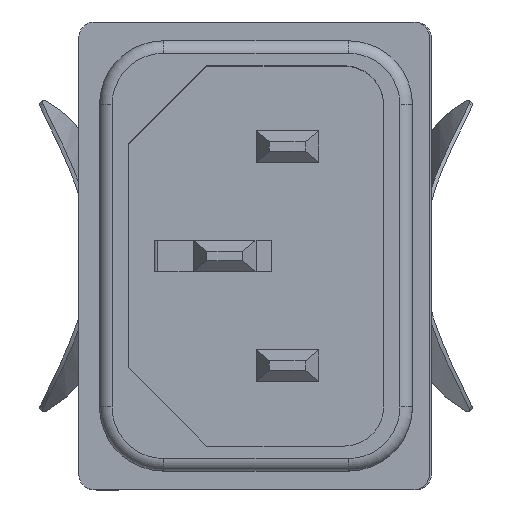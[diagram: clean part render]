
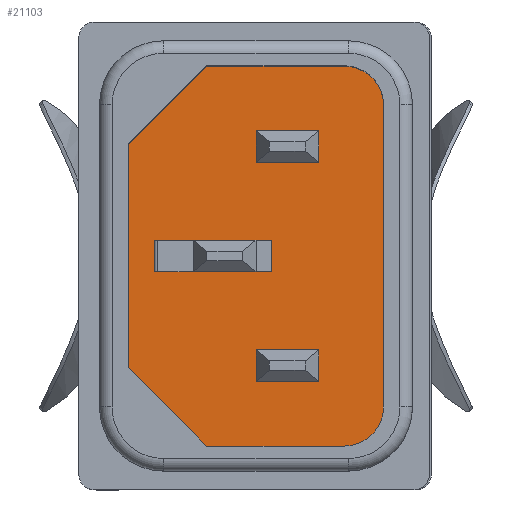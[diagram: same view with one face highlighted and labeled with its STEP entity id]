
A CAD part, top view. The second image highlights one B-rep face of the part: STEP entity #21103.
In plain terms, the highlighted planar face has unit normal (0, 0, 1).
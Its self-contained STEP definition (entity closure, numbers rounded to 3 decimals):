
#18095=CARTESIAN_POINT('',(39.15,49.042,37.5));
#18096=VERTEX_POINT('',#18095);
#18097=CARTESIAN_POINT('',(35.15,49.042,37.5));
#18098=VERTEX_POINT('',#18097);
#18099=CARTESIAN_POINT('',(39.15,49.042,37.5));
#18100=DIRECTION('',(-1.0,0.0,0.0));
#18101=VECTOR('',#18100,4.0);
#18102=LINE('',#18099,#18101);
#18103=EDGE_CURVE('',#18096,#18098,#18102,.T.);
#18245=CARTESIAN_POINT('',(35.15,51.042,37.5));
#18246=VERTEX_POINT('',#18245);
#18247=CARTESIAN_POINT('',(39.15,51.042,37.5));
#18248=VERTEX_POINT('',#18247);
#18249=CARTESIAN_POINT('',(35.15,51.042,37.5));
#18250=DIRECTION('',(1.0,0.0,0.0));
#18251=VECTOR('',#18250,4.0);
#18252=LINE('',#18249,#18251);
#18253=EDGE_CURVE('',#18246,#18248,#18252,.T.);
#18279=CARTESIAN_POINT('',(39.15,51.042,37.5));
#18280=DIRECTION('',(0.0,-1.0,0.0));
#18281=VECTOR('',#18280,2.);
#18282=LINE('',#18279,#18281);
#18283=EDGE_CURVE('',#18248,#18096,#18282,.T.);
#18311=CARTESIAN_POINT('',(35.15,49.042,37.5));
#18312=DIRECTION('',(0.0,1.0,0.0));
#18313=VECTOR('',#18312,2.0);
#18314=LINE('',#18311,#18313);
#18315=EDGE_CURVE('',#18098,#18246,#18314,.T.);
#18434=CARTESIAN_POINT('',(29.099,42.042,37.5));
#18435=VERTEX_POINT('',#18434);
#18436=CARTESIAN_POINT('',(29.099,44.042,37.5));
#18437=VERTEX_POINT('',#18436);
#18438=CARTESIAN_POINT('',(29.099,42.042,37.5));
#18439=DIRECTION('',(0.0,1.0,0.0));
#18440=VECTOR('',#18439,2.0);
#18441=LINE('',#18438,#18440);
#18442=EDGE_CURVE('',#18435,#18437,#18441,.T.);
#18498=CARTESIAN_POINT('',(36.15,42.042,37.5));
#18499=VERTEX_POINT('',#18498);
#18500=CARTESIAN_POINT('',(36.15,42.042,37.5));
#18501=DIRECTION('',(-1.0,0.0,0.0));
#18502=VECTOR('',#18501,7.051);
#18503=LINE('',#18500,#18502);
#18504=EDGE_CURVE('',#18499,#18435,#18503,.T.);
#18680=CARTESIAN_POINT('',(36.15,44.042,37.5));
#18681=VERTEX_POINT('',#18680);
#18682=CARTESIAN_POINT('',(29.099,44.042,37.5));
#18683=DIRECTION('',(1.0,0.0,0.0));
#18684=VECTOR('',#18683,7.051);
#18685=LINE('',#18682,#18684);
#18686=EDGE_CURVE('',#18437,#18681,#18685,.T.);
#18852=CARTESIAN_POINT('',(36.15,44.042,37.5));
#18853=DIRECTION('',(0.0,-1.0,0.0));
#18854=VECTOR('',#18853,2.);
#18855=LINE('',#18852,#18854);
#18856=EDGE_CURVE('',#18681,#18499,#18855,.T.);
#19145=CARTESIAN_POINT('',(39.15,35.042,37.5));
#19146=VERTEX_POINT('',#19145);
#19147=CARTESIAN_POINT('',(35.15,35.042,37.5));
#19148=VERTEX_POINT('',#19147);
#19149=CARTESIAN_POINT('',(39.15,35.042,37.5));
#19150=DIRECTION('',(-1.0,0.0,0.0));
#19151=VECTOR('',#19150,4.0);
#19152=LINE('',#19149,#19151);
#19153=EDGE_CURVE('',#19146,#19148,#19152,.T.);
#19295=CARTESIAN_POINT('',(35.15,37.042,37.5));
#19296=VERTEX_POINT('',#19295);
#19297=CARTESIAN_POINT('',(39.15,37.042,37.5));
#19298=VERTEX_POINT('',#19297);
#19299=CARTESIAN_POINT('',(35.15,37.042,37.5));
#19300=DIRECTION('',(1.0,0.0,0.0));
#19301=VECTOR('',#19300,4.);
#19302=LINE('',#19299,#19301);
#19303=EDGE_CURVE('',#19296,#19298,#19302,.T.);
#19329=CARTESIAN_POINT('',(39.15,37.042,37.5));
#19330=DIRECTION('',(0.0,-1.0,0.0));
#19331=VECTOR('',#19330,2.0);
#19332=LINE('',#19329,#19331);
#19333=EDGE_CURVE('',#19298,#19146,#19332,.T.);
#19361=CARTESIAN_POINT('',(35.15,35.042,37.5));
#19362=DIRECTION('',(0.0,1.0,0.0));
#19363=VECTOR('',#19362,2.0);
#19364=LINE('',#19361,#19363);
#19365=EDGE_CURVE('',#19148,#19296,#19364,.T.);
#20881=CARTESIAN_POINT('',(40.8,30.892,37.5));
#20882=VERTEX_POINT('',#20881);
#20883=CARTESIAN_POINT('',(43.3,33.392,37.5));
#20884=VERTEX_POINT('',#20883);
#20885=CARTESIAN_POINT('',(40.8,33.392,37.5));
#20886=DIRECTION('',(0.0,0.0,1.0));
#20887=DIRECTION('',(0.0,-1.0,0.0));
#20888=AXIS2_PLACEMENT_3D('',#20885,#20886,#20887);
#20889=CIRCLE('',#20888,2.5);
#20890=EDGE_CURVE('',#20882,#20884,#20889,.T.);
#20913=CARTESIAN_POINT('',(43.3,52.692,37.5));
#20914=VERTEX_POINT('',#20913);
#20915=CARTESIAN_POINT('',(43.3,33.392,37.5));
#20916=DIRECTION('',(0.0,1.0,0.0));
#20917=VECTOR('',#20916,19.3);
#20918=LINE('',#20915,#20917);
#20919=EDGE_CURVE('',#20884,#20914,#20918,.T.);
#20937=CARTESIAN_POINT('',(40.8,55.192,37.5));
#20938=VERTEX_POINT('',#20937);
#20939=CARTESIAN_POINT('',(40.8,52.692,37.5));
#20940=DIRECTION('',(0.0,0.0,1.0));
#20941=DIRECTION('',(1.0,0.0,0.0));
#20942=AXIS2_PLACEMENT_3D('',#20939,#20940,#20941);
#20943=CIRCLE('',#20942,2.5);
#20944=EDGE_CURVE('',#20914,#20938,#20943,.T.);
#20962=CARTESIAN_POINT('',(32.,55.192,37.5));
#20963=VERTEX_POINT('',#20962);
#20964=CARTESIAN_POINT('',(40.8,55.192,37.5));
#20965=DIRECTION('',(-1.0,0.0,0.0));
#20966=VECTOR('',#20965,8.8);
#20967=LINE('',#20964,#20966);
#20968=EDGE_CURVE('',#20938,#20963,#20967,.T.);
#20986=CARTESIAN_POINT('',(27.,50.192,37.5));
#20987=VERTEX_POINT('',#20986);
#20988=CARTESIAN_POINT('',(32.,55.192,37.5));
#20989=DIRECTION('',(-0.707,-0.707,0.0));
#20990=VECTOR('',#20989,7.071);
#20991=LINE('',#20988,#20990);
#20992=EDGE_CURVE('',#20963,#20987,#20991,.T.);
#21010=CARTESIAN_POINT('',(27.,35.892,37.5));
#21011=VERTEX_POINT('',#21010);
#21012=CARTESIAN_POINT('',(27.,50.192,37.5));
#21013=DIRECTION('',(0.0,-1.0,0.0));
#21014=VECTOR('',#21013,14.3);
#21015=LINE('',#21012,#21014);
#21016=EDGE_CURVE('',#20987,#21011,#21015,.T.);
#21034=CARTESIAN_POINT('',(32.,30.892,37.5));
#21035=VERTEX_POINT('',#21034);
#21036=CARTESIAN_POINT('',(27.,35.892,37.5));
#21037=DIRECTION('',(0.707,-0.707,0.0));
#21038=VECTOR('',#21037,7.071);
#21039=LINE('',#21036,#21038);
#21040=EDGE_CURVE('',#21011,#21035,#21039,.T.);
#21058=CARTESIAN_POINT('',(32.,30.892,37.5));
#21059=DIRECTION('',(1.0,0.0,0.0));
#21060=VECTOR('',#21059,8.8);
#21061=LINE('',#21058,#21060);
#21062=EDGE_CURVE('',#21035,#20882,#21061,.T.);
#21070=CARTESIAN_POINT('',(35.689,43.042,37.5));
#21071=DIRECTION('',(0.0,0.0,-1.0));
#21072=DIRECTION('',(1.0,0.0,0.0));
#21073=AXIS2_PLACEMENT_3D('',#21070,#21071,#21072);
#21074=PLANE('',#21073);
#21075=ORIENTED_EDGE('',*,*,#20890,.T.);
#21076=ORIENTED_EDGE('',*,*,#20919,.T.);
#21077=ORIENTED_EDGE('',*,*,#20944,.T.);
#21078=ORIENTED_EDGE('',*,*,#20968,.T.);
#21079=ORIENTED_EDGE('',*,*,#20992,.T.);
#21080=ORIENTED_EDGE('',*,*,#21016,.T.);
#21081=ORIENTED_EDGE('',*,*,#21040,.T.);
#21082=ORIENTED_EDGE('',*,*,#21062,.T.);
#21083=EDGE_LOOP('',(#21075,#21076,#21077,#21078,#21079,#21080,#21081,#21082));
#21084=FACE_OUTER_BOUND('',#21083,.T.);
#21085=ORIENTED_EDGE('',*,*,#18253,.T.);
#21086=ORIENTED_EDGE('',*,*,#18283,.T.);
#21087=ORIENTED_EDGE('',*,*,#18103,.T.);
#21088=ORIENTED_EDGE('',*,*,#18315,.T.);
#21089=EDGE_LOOP('',(#21085,#21086,#21087,#21088));
#21090=FACE_BOUND('',#21089,.T.);
#21091=ORIENTED_EDGE('',*,*,#18504,.T.);
#21092=ORIENTED_EDGE('',*,*,#18442,.T.);
#21093=ORIENTED_EDGE('',*,*,#18686,.T.);
#21094=ORIENTED_EDGE('',*,*,#18856,.T.);
#21095=EDGE_LOOP('',(#21091,#21092,#21093,#21094));
#21096=FACE_BOUND('',#21095,.T.);
#21097=ORIENTED_EDGE('',*,*,#19303,.T.);
#21098=ORIENTED_EDGE('',*,*,#19333,.T.);
#21099=ORIENTED_EDGE('',*,*,#19153,.T.);
#21100=ORIENTED_EDGE('',*,*,#19365,.T.);
#21101=EDGE_LOOP('',(#21097,#21098,#21099,#21100));
#21102=FACE_BOUND('',#21101,.T.);
#21103=ADVANCED_FACE('',(#21084,#21090,#21096,#21102),#21074,.F.);
